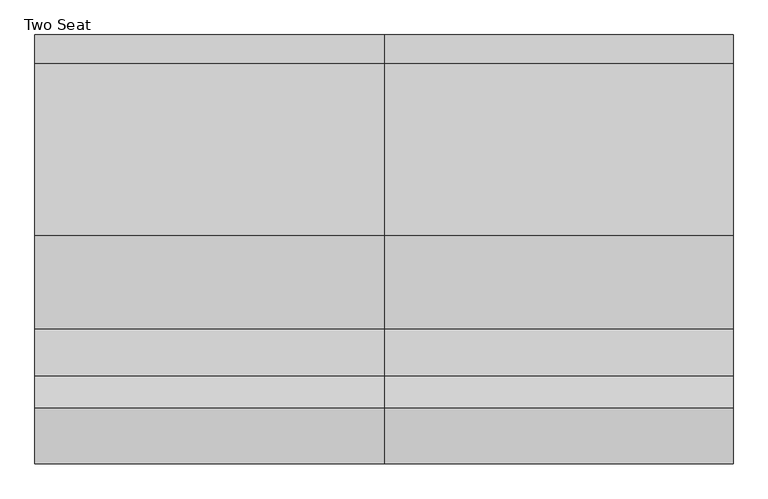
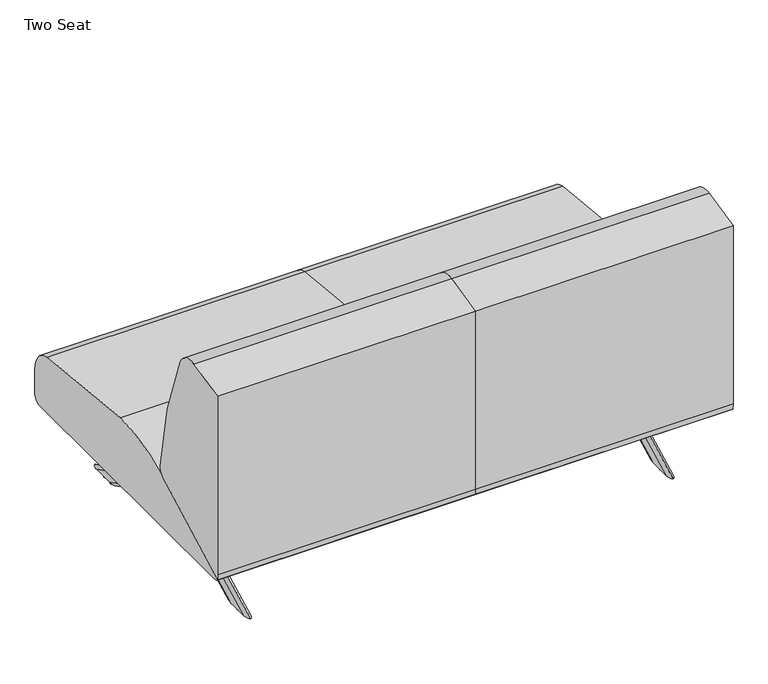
"""IFC4 building model written with IfcOpenShell, lengths in millimetres: furniture geometry, Coalesse_AM_Seating_LoungeChair_Sistema_LegBase_TwoSeat : Two Seat."""

import ifcopenshell
import ifcopenshell.guid

model = None  # the IFC model being written
_history = None  # IfcOwnerHistory: only IFC2X3 demands one
_inside = {}  # id of a spatial element -> (the spatial element, [elements in it])
_under = {}  # id of a project, library or spatial element -> (it, [spatial elements below it])
_declared = {}  # id of a project -> (the project, [libraries it declares])
_typed = {}  # id of a type object -> (the type object, [elements of that type])
_made_of = {}  # id of a material, layer set ... -> (it, [elements and type objects made of it])


def new_model(schema):
    """Start an empty IFC model of exactly this schema.

    Asked for "IFC4X3", IfcOpenShell would pick the latest addendum, in which some entities
    have other attributes; the version numbers below select the first issue.
    IFC2X3 requires an IfcOwnerHistory on every rooted entity: one is made here for all.
    """
    global model, _history
    if schema == "IFC4X3":
        model = ifcopenshell.file(schema_version=(4, 3, 0, 0))
    else:
        model = ifcopenshell.file(schema=schema)
    _inside.clear()
    _under.clear()
    _declared.clear()
    _typed.clear()
    _made_of.clear()
    _history = None
    if model.schema == "IFC2X3":
        org = make("IfcOrganization", Name="unknown")
        user = make(
            "IfcPersonAndOrganization",
            ThePerson=make("IfcPerson", FamilyName="unknown"),
            TheOrganization=org,
        )
        app = make(
            "IfcApplication",
            ApplicationDeveloper=org,
            Version="unknown",
            ApplicationFullName="unknown",
            ApplicationIdentifier="unknown",
        )
        _history = make(
            "IfcOwnerHistory",
            OwningUser=user,
            OwningApplication=app,
            ChangeAction="ADDED",
            CreationDate=0,
        )
    return model


def make(cls, **values):
    """One entity of the class cls with the attributes given. An attribute that is None is left unset."""
    return model.create_entity(
        cls, **{name: value for name, value in values.items() if value is not None}
    )


def rooted(cls, **values):
    """An entity with a GlobalId (a new one), such as an element, a storey or a relation."""
    return make(cls, GlobalId=ifcopenshell.guid.new(), OwnerHistory=_history, **values)


def si_unit(unit_type, name, prefix=None):
    """IfcSIUnit, for example si_unit("LENGTHUNIT", "METRE", prefix="MILLI")."""
    return make("IfcSIUnit", UnitType=unit_type, Prefix=prefix, Name=name)


def assignment(units):
    """IfcUnitAssignment: the units of a project."""
    return None if units is None else make("IfcUnitAssignment", Units=units)


def point(xyz):
    """IfcCartesianPoint."""
    return None if xyz is None else make("IfcCartesianPoint", Coordinates=xyz)


def direction(xyz):
    """IfcDirection."""
    return None if xyz is None else make("IfcDirection", DirectionRatios=xyz)


def frame(location, z_axis=None, x_axis=None):
    """IfcAxis2Placement3D, a coordinate frame: its origin and axes. An axis left out is left unset."""
    return make(
        "IfcAxis2Placement3D",
        Location=point(location),
        Axis=direction(z_axis),
        RefDirection=direction(x_axis),
    )


def frame_2d(location, x_axis=None):
    """IfcAxis2Placement2D, a coordinate frame in the plane: its origin and x axis."""
    return make(
        "IfcAxis2Placement2D", Location=point(location), RefDirection=direction(x_axis)
    )


def origin():
    """The frame at (0, 0, 0) with its axes left unset."""
    return frame((0.0, 0.0, 0.0))


def origin_with_axes():
    """The frame at (0, 0, 0) with the z axis (0, 0, 1) and the x axis (1, 0, 0) written out."""
    return frame((0.0, 0.0, 0.0), z_axis=(0.0, 0.0, 1.0), x_axis=(1.0, 0.0, 0.0))


def place(relative_to, where):
    """IfcLocalPlacement: puts the frame where relative to a parent placement (None: the world)."""
    return make(
        "IfcLocalPlacement", PlacementRelTo=relative_to, RelativePlacement=where
    )


def context(
    kind, dimensions, precision=None, world=None, true_north=None, identifier=None
):
    """IfcGeometricRepresentationContext, for example the 3D "Model" context."""
    return make(
        "IfcGeometricRepresentationContext",
        ContextIdentifier=identifier,
        ContextType=kind,
        CoordinateSpaceDimension=dimensions,
        Precision=precision,
        WorldCoordinateSystem=world,
        TrueNorth=true_north,
    )


def project(units=None, contexts=None):
    """IfcProject with its units and contexts."""
    return rooted(
        "IfcProject",
        Name="project",
        RepresentationContexts=contexts,
        UnitsInContext=assignment(units),
    )


def spatial(cls, under=None, at=None, **own):
    """A site, building, storey or space (cls), placed at a placement, below another one or the project."""
    s = rooted(cls, ObjectPlacement=at, **own)
    if under is not None:
        _under.setdefault(under.id(), (under, []))[1].append(s)
    return s


def polyline(points):
    """IfcPolyline through the points."""
    return make("IfcPolyline", Points=[point(p) for p in points])


def circle_curve(where, radius):
    """IfcCircle in the frame where."""
    return make("IfcCircle", Position=where, Radius=radius)


def ellipse_curve(where, semi_axis1, semi_axis2):
    """IfcEllipse in the frame where."""
    return make(
        "IfcEllipse", Position=where, SemiAxis1=semi_axis1, SemiAxis2=semi_axis2
    )


def trimmed(basis, trim1, trim2, sense, master):
    """IfcTrimmedCurve: the piece of a basis curve between two trims."""
    return make(
        "IfcTrimmedCurve",
        BasisCurve=basis,
        Trim1=trim1,
        Trim2=trim2,
        SenseAgreement=sense,
        MasterRepresentation=master,
    )


def segment(curve, same_sense, transition):
    """IfcCompositeCurveSegment."""
    return make(
        "IfcCompositeCurveSegment",
        Transition=transition,
        SameSense=same_sense,
        ParentCurve=curve,
    )


def composite_curve(segments, self_intersect=None):
    """IfcCompositeCurve: segments joined end to end."""
    return make("IfcCompositeCurve", Segments=segments, SelfIntersect=self_intersect)


def outline(outer, holes=None, kind="AREA"):
    """IfcArbitraryClosedProfileDef: a profile drawn as a closed curve; with holes, ...WithVoids."""
    if holes is None:
        return make("IfcArbitraryClosedProfileDef", ProfileType=kind, OuterCurve=outer)
    return make(
        "IfcArbitraryProfileDefWithVoids",
        ProfileType=kind,
        OuterCurve=outer,
        InnerCurves=holes,
    )


def extrude(swept, where, along, depth):
    """IfcExtrudedAreaSolid: the profile swept, set in the frame where, extruded along a direction by depth."""
    return make(
        "IfcExtrudedAreaSolid",
        SweptArea=swept,
        Position=where,
        ExtrudedDirection=direction(along),
        Depth=depth,
    )


def shape(context_of_items, identifier, shape_type, items):
    """IfcShapeRepresentation: the items that make up one representation, for example the "Body"."""
    return make(
        "IfcShapeRepresentation",
        ContextOfItems=context_of_items,
        RepresentationIdentifier=identifier,
        RepresentationType=shape_type,
        Items=items,
    )


def source(mapping_origin, context_of_items, identifier, shape_type, items):
    """IfcRepresentationMap: a shape defined once, which mapped items show again and again."""
    return make(
        "IfcRepresentationMap",
        MappingOrigin=mapping_origin,
        MappedRepresentation=shape(context_of_items, identifier, shape_type, items),
    )


def transform(
    local_origin,
    x_axis=None,
    y_axis=None,
    z_axis=None,
    scale=None,
    scale2=None,
    scale3=None,
    uniform=True,
):
    """IfcCartesianTransformationOperator3D, or its non-uniform kind. x_axis, y_axis, z_axis: its Axis1, 2, 3."""
    if uniform:
        return make(
            "IfcCartesianTransformationOperator3D",
            Axis1=direction(x_axis),
            Axis2=direction(y_axis),
            LocalOrigin=point(local_origin),
            Scale=scale,
            Axis3=direction(z_axis),
        )
    return make(
        "IfcCartesianTransformationOperator3DnonUniform",
        Axis1=direction(x_axis),
        Axis2=direction(y_axis),
        LocalOrigin=point(local_origin),
        Scale=scale,
        Axis3=direction(z_axis),
        Scale2=scale2,
        Scale3=scale3,
    )


def mapped(mapping_source, mapping_target):
    """IfcMappedItem: shows the shape of a source again, moved by a transform."""
    return make(
        "IfcMappedItem", MappingSource=mapping_source, MappingTarget=mapping_target
    )


def made_of(thing, what):
    """Note that an element or type object is made of a material, layer set ...; save() writes the relation."""
    if what is not None:
        _made_of.setdefault(what.id(), (what, []))[1].append(thing)
    return thing


def element(
    cls,
    number,
    at=None,
    inside=None,
    cuts=None,
    type_object=None,
    material=None,
    context=None,
    identifier="Body",
    shape_type=None,
    held_by="IfcProductDefinitionShape",
    body=None,
    shapes=None,
    **own,
):
    """One element of the class cls, such as IfcWall. Its Tag is "e" and its number.

    at: its placement. inside: the storey or other place that contains it. cuts: it is an
    opening in that element (IfcRelVoidsElement). A single representation is given by context,
    identifier, shape_type and body (its items); several are given by shapes. held_by: the class
    of the entity that holds the representations. save() writes the other relations.
    """
    e = rooted(cls, Tag="e%d" % number, ObjectPlacement=at, **own)
    if body is not None:
        shapes = [shape(context, identifier, shape_type, body)]
    if shapes is not None:
        e.Representation = make(held_by, Representations=shapes)
    if inside is not None:
        _inside.setdefault(inside.id(), (inside, []))[1].append(e)
    if cuts is not None:
        rooted(
            "IfcRelVoidsElement", RelatingBuildingElement=cuts, RelatedOpeningElement=e
        )
    if type_object is not None:
        _typed.setdefault(type_object.id(), (type_object, []))[1].append(e)
    return made_of(e, material)


def aggregate(whole, parts):
    """IfcRelAggregates: a whole, such as a stair, and the parts it consists of."""
    return rooted("IfcRelAggregates", RelatingObject=whole, RelatedObjects=parts)


def save(model, path):
    """Write the relations noted so far, then the file.

    IfcRelAggregates (storeys below a building ...), IfcRelContainedInSpatialStructure (elements
    in a storey), IfcRelDefinesByType, IfcRelAssociatesMaterial and IfcRelDeclares: one each for
    every whole, place, type object, material and project.
    """
    for whole, parts in _under.values():
        aggregate(whole, parts)
    for where, things in _inside.values():
        rooted(
            "IfcRelContainedInSpatialStructure",
            RelatedElements=things,
            RelatingStructure=where,
        )
    for kind, things in _typed.values():
        rooted("IfcRelDefinesByType", RelatedObjects=things, RelatingType=kind)
    for what, things in _made_of.values():
        rooted("IfcRelAssociatesMaterial", RelatedObjects=things, RelatingMaterial=what)
    for by, libraries in _declared.values():
        rooted("IfcRelDeclares", RelatingContext=by, RelatedDefinitions=libraries)
    model.write(path)


def plane_surface(at):
    """IfcPlane: the flat surface through the origin of the frame at, square to its z axis."""
    return make("IfcPlane", Position=at)


def cylinder_surface(at, radius):
    """IfcCylindricalSurface: all points at the distance radius from the z axis of the frame at."""
    return make("IfcCylindricalSurface", Position=at, Radius=radius)


def advanced_brep(points, edges, surfaces, faces):
    """IfcAdvancedBrep: a solid bounded by faces that lie on surfaces and meet in shared edges.

    An edge is (start, end): straight between two places in points (the first is 0);
    or (start, end, curve); or (start, end, curve, False) where it runs against its curve.
    A face is (place in surfaces, loops), or (place, loops, False) where it looks against
    its surface's normal. A loop lists edges by number (the first is 1), with a minus sign
    where the edge is run from its end to its start. The first loop is the outer one.
    """
    corners = [point(p) for p in points]
    vertices = [make("IfcVertexPoint", VertexGeometry=c) for c in corners]
    made = []
    for start, end, *more in edges:
        made.append(
            make(
                "IfcEdgeCurve",
                EdgeStart=vertices[start],
                EdgeEnd=vertices[end],
                EdgeGeometry=more[0] if more else make("IfcPolyline", Points=[corners[start], corners[end]]),
                SameSense=more[1] if len(more) > 1 else True,
            )
        )
    hull = []
    for where, loops, *sense in faces:
        bounds = []
        for j, loop in enumerate(loops):
            ring = [make("IfcOrientedEdge", EdgeElement=made[abs(k) - 1], Orientation=k > 0) for k in loop]
            bounds.append(
                make(
                    "IfcFaceOuterBound" if j == 0 else "IfcFaceBound",
                    Bound=make("IfcEdgeLoop", EdgeList=ring),
                    Orientation=True,
                )
            )
        hull.append(make("IfcAdvancedFace", Bounds=bounds, FaceSurface=surfaces[where], SameSense=sense[0] if sense else True))
    return make("IfcAdvancedBrep", Outer=make("IfcClosedShell", CfsFaces=hull))


def two_seat_87143def(model_context):
    return source(origin(), model_context, "Body", "SolidModel", [
        extrude(outline(composite_curve([segment(trimmed(circle_curve(frame_2d((201.422, 966.5259944)), 3.048), [point((204.47, 966.5259944))], [point((201.422, 963.4779944))], False, "CARTESIAN"), True, "CONTINUOUS"), segment(polyline([(201.422, 963.4779944), (157.0399209, 963.4779944)]), True, "CONTINUOUS"), segment(trimmed(circle_curve(frame_2d((157.0399209, 966.5259944)), 3.048), [point((157.0399209, 963.4779944))], [point((153.9919209, 966.5259944))], False, "CARTESIAN"), True, "CONTINUOUS"), segment(polyline([(153.9919209, 966.5259944), (153.9919209, 1011.2135501)]), True, "CONTINUOUS"), segment(trimmed(circle_curve(frame_2d((157.056462, 1011.2135501)), 3.0645412), [point((153.9919209, 1011.2135501))], [point((157.056462, 1014.2780913))], False, "CARTESIAN"), True, "CONTINUOUS"), segment(polyline([(157.056462, 1014.2780913), (201.422, 1014.2780913)]), True, "CONTINUOUS"), segment(trimmed(circle_curve(frame_2d((201.422, 1011.2300913)), 3.048), [point((201.422, 1014.2780913))], [point((204.47, 1011.2300913))], False, "CARTESIAN"), True, "CONTINUOUS"), segment(polyline([(204.47, 1011.2300913), (204.47, 966.5259944)]), True, "CONTINUOUS")], self_intersect=False)), frame((0.0, -222.3519802, 0.0), z_axis=(0.0, 1.0, 0.0), x_axis=(0.0, 0.0, 1.0)), (0.0, 0.0, 1.0), 444.7039604),
        extrude(outline(composite_curve([segment(trimmed(circle_curve(frame_2d((989.1765227, -335.9943389)), 6.096), [point((995.2725227, -335.9943389))], [point((983.0805227, -335.9943389))], False, "CARTESIAN"), True, "CONTINUOUS"), segment(trimmed(circle_curve(frame_2d((989.1765227, -335.9943389)), 6.096), [point((983.0805227, -335.9943389))], [point((995.2725227, -335.9943389))], False, "CARTESIAN"), True, "CONTINUOUS")], self_intersect=False)), origin_with_axes(), (0.0, 0.0, 1.0), 4.3662291),
        extrude(outline(composite_curve([segment(trimmed(circle_curve(frame_2d((989.1765227, -303.6385124)), 6.096), [point((995.2725227, -303.6385124))], [point((983.0805227, -303.6385124))], False, "CARTESIAN"), True, "CONTINUOUS"), segment(trimmed(circle_curve(frame_2d((989.1765227, -303.6385124)), 6.096), [point((983.0805227, -303.6385124))], [point((995.2725227, -303.6385124))], False, "CARTESIAN"), True, "CONTINUOUS")], self_intersect=False)), origin_with_axes(), (0.0, 0.0, 1.0), 4.3662291),
        extrude(outline(composite_curve([segment(trimmed(circle_curve(frame_2d((989.1765227, 335.9943389)), 6.096), [point((995.2725227, 335.9943389))], [point((983.0805227, 335.9943389))], False, "CARTESIAN"), True, "CONTINUOUS"), segment(trimmed(circle_curve(frame_2d((989.1765227, 335.9943389)), 6.096), [point((983.0805227, 335.9943389))], [point((995.2725227, 335.9943389))], False, "CARTESIAN"), True, "CONTINUOUS")], self_intersect=False)), origin_with_axes(), (0.0, 0.0, 1.0), 4.3662291),
        extrude(outline(composite_curve([segment(trimmed(circle_curve(frame_2d((989.1765227, 303.6385124)), 6.096), [point((995.2725227, 303.6385124))], [point((983.0805227, 303.6385124))], False, "CARTESIAN"), True, "CONTINUOUS"), segment(trimmed(circle_curve(frame_2d((989.1765227, 303.6385124)), 6.096), [point((983.0805227, 303.6385124))], [point((995.2725227, 303.6385124))], False, "CARTESIAN"), True, "CONTINUOUS")], self_intersect=False)), origin_with_axes(), (0.0, 0.0, 1.0), 4.3662291),
        advanced_brep(
        [(997.3356355, 0.0, 159.4180284), (989.1765227, 0.0, 147.5156063), (989.1765227, 280.9464714, 4.3662291), (997.3356355, 304.3062902, 4.3662291), (980.3404671, 0.0, 159.4180284), (980.3404671, 304.3062902, 4.3662291), (980.3404671, -304.3062902, 4.3662291), (980.3404671, -369.5911772, 4.3662291), (980.3404671, 0.0, 192.6823398), (980.3404671, 369.5911772, 4.3662291), (989.1765227, 0.0, 204.0827956), (989.1765227, 391.9658314, 4.3662291), (997.3356355, 0.0, 192.6823398), (997.3356355, 369.5911772, 4.3662291), (997.3356355, -369.5911772, 4.3662291), (997.3356355, -304.3062902, 4.3662291), (989.1765227, -280.9464714, 4.3662291), (989.1765227, -391.9658314, 4.3662291)],
        [
            (0, 1, ellipse_curve(frame((986.3638526, 0.0, 159.4180284), z_axis=(0.0, 0.9999999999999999, 0.0), x_axis=(0.0, 0.0, -1.0)), 12.3139198, 10.9717828)),
            (1, 2),
            (2, 3, ellipse_curve(frame((986.3638526, 304.3062902, 4.3662291), z_axis=(0.0, 0.0, 1.0), x_axis=(0.0, 0.9999999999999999, 0.0)), 24.1674283, 10.9717828)),
            (3, 0),
            (1, 4, ellipse_curve(frame((991.1226981, 0.0, 159.4180284), z_axis=(0.0, 0.9999999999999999, 0.0), x_axis=(0.0, 0.0, -1.0)), 12.1011807, 10.782231)),
            (4, 5),
            (5, 2, ellipse_curve(frame((991.1226981, 304.3062902, 4.3662291), z_axis=(0.0, 0.0, 1.0), x_axis=(0.0, 0.9999999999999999, 0.0)), 23.7499044, 10.782231)),
            (4, 6),
            (6, 7),
            (7, 8),
            (8, 9),
            (9, 5),
            (8, 10, ellipse_curve(frame((990.5972164, 0.0, 192.6823398), z_axis=(0.0, 0.9999999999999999, 0.0), x_axis=(0.0, 0.0, -1.0)), 11.5114188, 10.2567493)),
            (10, 11),
            (11, 9, ellipse_curve(frame((990.5972164, 369.5911772, 4.3662291), z_axis=(0.0, 0.0, 1.0), x_axis=(0.0, 0.9999999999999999, 0.0)), 22.5924315, 10.2567493)),
            (10, 12, ellipse_curve(frame((986.9329323, 0.0, 192.6823398), z_axis=(0.0, 0.9999999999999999, 0.0), x_axis=(0.0, 0.0, -1.0)), 11.6752267, 10.4027032)),
            (12, 13),
            (13, 11, ellipse_curve(frame((986.9329323, 369.5911772, 4.3662291), z_axis=(0.0, 0.0, 1.0), x_axis=(0.0, 0.9999999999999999, 0.0)), 22.9139226, 10.4027032)),
            (3, 13),
            (12, 14),
            (14, 15),
            (15, 0),
            (15, 16, ellipse_curve(frame((986.3638526, -304.3062902, 4.3662291), z_axis=(0.0, 0.0, 1.0), x_axis=(0.0, 1.0, 0.0)), 24.1674283, 10.9717828)),
            (16, 1),
            (16, 6, ellipse_curve(frame((991.1226981, -304.3062902, 4.3662291), z_axis=(0.0, 0.0, 1.0), x_axis=(0.0, 1.0, 0.0)), 23.7499044, 10.782231)),
            (7, 17, ellipse_curve(frame((990.5972164, -369.5911772, 4.3662291), z_axis=(0.0, 0.0, 1.0), x_axis=(0.0, 1.0, 0.0)), 22.5924315, 10.2567493)),
            (17, 10),
            (17, 14, ellipse_curve(frame((986.9329323, -369.5911772, 4.3662291), z_axis=(0.0, 0.0, 1.0), x_axis=(0.0, 1.0, 0.0)), 22.9139226, 10.4027032)),
        ],
        [
            cylinder_surface(frame((986.3638526, 406.1496224, -47.5255405), z_axis=(0.0, 0.891006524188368, -0.45399049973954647), x_axis=(-1.0, 0.0, 0.0)), 10.9717828),
            cylinder_surface(frame((991.1226981, 406.1496224, -47.5255405), z_axis=(0.0, 0.891006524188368, -0.45399049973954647), x_axis=(-1.0, 0.0, 0.0)), 10.782231),
            plane_surface(frame((980.3404671, 406.1496224, -47.5255405), z_axis=(-1.0, 0.0, 0.0), x_axis=(0.0, -0.8910065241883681, 0.45399049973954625))),
            cylinder_surface(frame((990.5972164, 419.605319, -21.1172489), z_axis=(0.0, 0.891006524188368, -0.45399049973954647), x_axis=(-1.0, 0.0, 0.0)), 10.2567493),
            cylinder_surface(frame((986.9329323, 419.605319, -21.1172489), z_axis=(0.0, 0.891006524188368, -0.45399049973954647), x_axis=(-1.0, 0.0, 0.0)), 10.4027032),
            plane_surface(frame((997.3356355, 419.605319, -21.1172489), z_axis=(1.0000000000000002, 0.0, 0.0), x_axis=(0.0, -0.8910065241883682, 0.45399049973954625))),
            cylinder_surface(frame((986.3638526, -27.0708966, 145.6247177), z_axis=(0.0, 0.8910065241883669, 0.45399049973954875), x_axis=(-1.0, 0.0, 0.0)), 10.9717828),
            cylinder_surface(frame((991.1226981, -27.0708966, 145.6247177), z_axis=(0.0, 0.8910065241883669, 0.45399049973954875), x_axis=(-1.0, 0.0, 0.0)), 10.782231),
            cylinder_surface(frame((990.5972164, -40.5265933, 172.0330092), z_axis=(0.0, 0.8910065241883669, 0.45399049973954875), x_axis=(-1.0, 0.0, 0.0)), 10.2567493),
            cylinder_surface(frame((986.9329323, -40.5265933, 172.0330092), z_axis=(0.0, 0.8910065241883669, 0.45399049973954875), x_axis=(-1.0, 0.0, 0.0)), 10.4027032),
            plane_surface(frame((1293.9765227, -253.4374013, 4.3662291), z_axis=(0.0, 0.0, -1.0), x_axis=(-1.0, 0.0, 0.0))),
            plane_surface(frame((1293.9765227, 424.8336244, 4.3662291), z_axis=(0.0, 0.0, -1.0), x_axis=(-1.0, 0.0, 0.0))),
        ],
        [
            (0, [[1, 2, 3, 4]]),
            (1, [[5, 6, 7, -2]]),
            (2, [[-6, 8, 9, 10, 11, 12]]),
            (3, [[13, 14, 15, -11]]),
            (4, [[16, 17, 18, -14]]),
            (5, [[-4, 19, -17, 20, 21, 22]]),
            (6, [[-1, -22, 23, 24]]),
            (7, [[-5, -24, 25, -8]]),
            (8, [[-13, -10, 26, 27]]),
            (9, [[-16, -27, 28, -20]]),
            (10, [[-9, -25, -23, -21, -28, -26]]),
            (11, [[-3, -7, -12, -15, -18, -19]]),
        ],
    ),
        extrude(outline(composite_curve([segment(polyline([(-459.4795619, 775.8234697), (-339.9143278, 802.6408523)]), True, "CONTINUOUS"), segment(trimmed(circle_curve(frame_2d((-326.5730192, 743.158661)), 60.96), [point((-339.9143278, 802.6408523))], [point((-271.1088001, 768.4537592))], False, "CARTESIAN"), True, "CONTINUOUS"), segment(trimmed(circle_curve(frame_2d((-1327.5544182, 286.6495247)), 1161.1256023), [point((-271.1088001, 768.4537592))], [point((-170.6161698, 385.1713698))], False, "CARTESIAN"), True, "CONTINUOUS"), segment(trimmed(circle_curve(frame_2d((-195.9245701, 383.0161724)), 25.4), [point((-170.6161698, 385.1713698))], [point((-183.8457951, 360.6719742))], False, "CARTESIAN"), True, "CONTINUOUS"), segment(polyline([(-183.8457951, 360.6719742), (-458.9860775, 211.937276)]), True, "CONTINUOUS"), segment(trimmed(circle_curve(frame_2d((-191.495971, 228.1929806)), 267.983591), [point((-458.9860775, 211.937276))], [point((-459.4795619, 228.1929806))], False, "CARTESIAN"), True, "CONTINUOUS"), segment(polyline([(-459.4795619, 228.1929806), (-459.4795619, 775.8234697)]), True, "CONTINUOUS")], self_intersect=False)), frame((-374.8034773, 0.0, 0.0), z_axis=(1.0, 0.0, 0.0), x_axis=(0.0, 1.0, 0.0)), (0.0, 0.0, 1.0), 749.3),
        extrude(outline(composite_curve([segment(polyline([(438.9184381, 204.47), (-442.3266309, 204.47)]), True, "CONTINUOUS"), segment(trimmed(circle_curve(frame_2d((-442.3266309, 226.7871991)), 22.3171991), [point((-442.3266309, 204.47))], [point((-458.9860775, 211.937276))], False, "CARTESIAN"), True, "CONTINUOUS"), segment(polyline([(-458.9860775, 211.937276), (-184.5757008, 360.2774035)]), True, "CONTINUOUS"), segment(trimmed(circle_curve(frame_2d((24.5128424, -28.3829182)), 441.333054), [point((-184.5757008, 360.2774035))], [point((31.1968175, 412.8995185))], False, "CARTESIAN"), True, "CONTINUOUS"), segment(trimmed(circle_curve(frame_2d((-2.2103559, -1792.6740646)), 2205.8265729), [point((31.1968175, 412.8995185))], [point((398.9277015, 376.3716077))], False, "CARTESIAN"), True, "CONTINUOUS"), segment(trimmed(circle_curve(frame_2d((385.0704381, 301.4421993)), 76.2), [point((398.9277015, 376.3716077))], [point((461.2704381, 301.4421993))], False, "CARTESIAN"), True, "CONTINUOUS"), segment(polyline([(461.2704381, 301.4421993), (461.2704381, 226.822)]), True, "CONTINUOUS"), segment(trimmed(circle_curve(frame_2d((438.9184381, 226.822)), 22.352), [point((461.2704381, 226.822))], [point((438.9184381, 204.47))], False, "CARTESIAN"), True, "CONTINUOUS")], self_intersect=False)), frame((-374.8034773, 0.0, 0.0), z_axis=(1.0, 0.0, 0.0), x_axis=(0.0, 1.0, 0.0)), (0.0, 0.0, 1.0), 749.3),
        extrude(outline(composite_curve([segment(polyline([(-459.4795619, 775.8234697), (-339.9143278, 802.6408523)]), True, "CONTINUOUS"), segment(trimmed(circle_curve(frame_2d((-326.5730192, 743.158661)), 60.96), [point((-339.9143278, 802.6408523))], [point((-271.1088001, 768.4537592))], False, "CARTESIAN"), True, "CONTINUOUS"), segment(trimmed(circle_curve(frame_2d((-1327.5544182, 286.6495247)), 1161.1256023), [point((-271.1088001, 768.4537592))], [point((-170.6161698, 385.1713698))], False, "CARTESIAN"), True, "CONTINUOUS"), segment(trimmed(circle_curve(frame_2d((-195.9245701, 383.0161724)), 25.4), [point((-170.6161698, 385.1713698))], [point((-183.8457951, 360.6719742))], False, "CARTESIAN"), True, "CONTINUOUS"), segment(polyline([(-183.8457951, 360.6719742), (-458.9860775, 211.937276)]), True, "CONTINUOUS"), segment(trimmed(circle_curve(frame_2d((-191.495971, 228.1929806)), 267.983591), [point((-458.9860775, 211.937276))], [point((-459.4795619, 228.1929806))], False, "CARTESIAN"), True, "CONTINUOUS"), segment(polyline([(-459.4795619, 228.1929806), (-459.4795619, 775.8234697)]), True, "CONTINUOUS")], self_intersect=False)), frame((374.4965227, 0.0, 0.0), z_axis=(1.0, 0.0, 0.0), x_axis=(0.0, 1.0, 0.0)), (0.0, 0.0, 1.0), 749.3),
        extrude(outline(composite_curve([segment(polyline([(438.9184381, 204.47), (-442.3266309, 204.47)]), True, "CONTINUOUS"), segment(trimmed(circle_curve(frame_2d((-442.3266309, 226.7871991)), 22.3171991), [point((-442.3266309, 204.47))], [point((-458.9860775, 211.937276))], False, "CARTESIAN"), True, "CONTINUOUS"), segment(polyline([(-458.9860775, 211.937276), (-184.5757008, 360.2774035)]), True, "CONTINUOUS"), segment(trimmed(circle_curve(frame_2d((24.5128424, -28.3829182)), 441.333054), [point((-184.5757008, 360.2774035))], [point((31.1968175, 412.8995185))], False, "CARTESIAN"), True, "CONTINUOUS"), segment(trimmed(circle_curve(frame_2d((-2.2103559, -1792.6740646)), 2205.8265729), [point((31.1968175, 412.8995185))], [point((398.9277015, 376.3716077))], False, "CARTESIAN"), True, "CONTINUOUS"), segment(trimmed(circle_curve(frame_2d((385.0704381, 301.4421993)), 76.2), [point((398.9277015, 376.3716077))], [point((461.2704381, 301.4421993))], False, "CARTESIAN"), True, "CONTINUOUS"), segment(polyline([(461.2704381, 301.4421993), (461.2704381, 226.822)]), True, "CONTINUOUS"), segment(trimmed(circle_curve(frame_2d((438.9184381, 226.822)), 22.352), [point((461.2704381, 226.822))], [point((438.9184381, 204.47))], False, "CARTESIAN"), True, "CONTINUOUS")], self_intersect=False)), frame((374.4965227, 0.0, 0.0), z_axis=(1.0, 0.0, 0.0), x_axis=(0.0, 1.0, 0.0)), (0.0, 0.0, 1.0), 749.3),
        extrude(outline(composite_curve([segment(polyline([(204.47, -217.532949), (204.47, -262.2370459)]), True, "CONTINUOUS"), segment(trimmed(circle_curve(frame_2d((201.422, -262.2370459)), 3.048), [point((204.47, -262.2370459))], [point((201.422, -265.2850459))], False, "CARTESIAN"), True, "CONTINUOUS"), segment(polyline([(201.422, -265.2850459), (157.056462, -265.2850459)]), True, "CONTINUOUS"), segment(trimmed(circle_curve(frame_2d((157.056462, -262.2205047)), 3.0645412), [point((157.056462, -265.2850459))], [point((153.9919209, -262.2205047))], False, "CARTESIAN"), True, "CONTINUOUS"), segment(polyline([(153.9919209, -262.2205047), (153.9919209, -217.532949)]), True, "CONTINUOUS"), segment(trimmed(circle_curve(frame_2d((157.0399209, -217.532949)), 3.048), [point((153.9919209, -217.532949))], [point((157.0399209, -214.484949))], False, "CARTESIAN"), True, "CONTINUOUS"), segment(polyline([(157.0399209, -214.484949), (201.422, -214.484949)]), True, "CONTINUOUS"), segment(trimmed(circle_curve(frame_2d((201.422, -217.532949)), 3.048), [point((201.422, -214.484949))], [point((204.47, -217.532949))], False, "CARTESIAN"), True, "CONTINUOUS")], self_intersect=False)), frame((0.0, -222.3519802, 0.0), z_axis=(0.0, 1.0, 0.0), x_axis=(0.0, 0.0, 1.0)), (0.0, 0.0, 1.0), 444.7039604),
        extrude(outline(composite_curve([segment(trimmed(circle_curve(frame_2d((-240.1834773, -335.9943389)), 6.096), [point((-246.2794773, -335.9943389))], [point((-234.0874773, -335.9943389))], False, "CARTESIAN"), True, "CONTINUOUS"), segment(trimmed(circle_curve(frame_2d((-240.1834773, -335.9943389)), 6.096), [point((-234.0874773, -335.9943389))], [point((-246.2794773, -335.9943389))], False, "CARTESIAN"), True, "CONTINUOUS")], self_intersect=False)), origin_with_axes(), (0.0, 0.0, 1.0), 4.3662291),
        extrude(outline(composite_curve([segment(trimmed(circle_curve(frame_2d((-240.1834773, -303.6385124)), 6.096), [point((-246.2794773, -303.6385124))], [point((-234.0874773, -303.6385124))], False, "CARTESIAN"), True, "CONTINUOUS"), segment(trimmed(circle_curve(frame_2d((-240.1834773, -303.6385124)), 6.096), [point((-234.0874773, -303.6385124))], [point((-246.2794773, -303.6385124))], False, "CARTESIAN"), True, "CONTINUOUS")], self_intersect=False)), origin_with_axes(), (0.0, 0.0, 1.0), 4.3662291),
        extrude(outline(composite_curve([segment(trimmed(circle_curve(frame_2d((-240.1834773, 335.9943389)), 6.096), [point((-246.2794773, 335.9943389))], [point((-234.0874773, 335.9943389))], False, "CARTESIAN"), True, "CONTINUOUS"), segment(trimmed(circle_curve(frame_2d((-240.1834773, 335.9943389)), 6.096), [point((-234.0874773, 335.9943389))], [point((-246.2794773, 335.9943389))], False, "CARTESIAN"), True, "CONTINUOUS")], self_intersect=False)), origin_with_axes(), (0.0, 0.0, 1.0), 4.3662291),
        extrude(outline(composite_curve([segment(trimmed(circle_curve(frame_2d((-240.1834773, 303.6385124)), 6.096), [point((-246.2794773, 303.6385124))], [point((-234.0874773, 303.6385124))], False, "CARTESIAN"), True, "CONTINUOUS"), segment(trimmed(circle_curve(frame_2d((-240.1834773, 303.6385124)), 6.096), [point((-234.0874773, 303.6385124))], [point((-246.2794773, 303.6385124))], False, "CARTESIAN"), True, "CONTINUOUS")], self_intersect=False)), origin_with_axes(), (0.0, 0.0, 1.0), 4.3662291),
        advanced_brep(
        [(-248.3425901, 0.0, 159.4180284), (-248.3425901, 304.3062902, 4.3662291), (-240.1834773, 280.9464714, 4.3662291), (-240.1834773, 0.0, 147.5156063), (-231.3474218, 304.3062902, 4.3662291), (-231.3474218, 0.0, 159.4180284), (-231.3474218, 369.5911772, 4.3662291), (-231.3474218, 0.0, 192.6823398), (-231.3474218, -369.5911772, 4.3662291), (-231.3474218, -304.3062902, 4.3662291), (-240.1834773, 391.9658314, 4.3662291), (-240.1834773, 0.0, 204.0827956), (-248.3425901, 369.5911772, 4.3662291), (-248.3425901, 0.0, 192.6823398), (-248.3425901, -304.3062902, 4.3662291), (-248.3425901, -369.5911772, 4.3662291), (-240.1834773, -280.9464714, 4.3662291), (-240.1834773, -391.9658314, 4.3662291)],
        [
            (0, 1),
            (1, 2, ellipse_curve(frame((-237.3708073, 304.3062902, 4.3662291), z_axis=(0.0, 0.0, 1.0), x_axis=(0.0, 0.9999999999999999, 0.0)), 24.1674283, 10.9717828)),
            (2, 3),
            (3, 0, ellipse_curve(frame((-237.3708073, 0.0, 159.4180284), z_axis=(0.0, 0.9999999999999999, 0.0), x_axis=(0.0, 0.0, -1.0)), 12.3139198, 10.9717828)),
            (2, 4, ellipse_curve(frame((-242.1296527, 304.3062902, 4.3662291), z_axis=(0.0, 0.0, 1.0), x_axis=(0.0, 0.9999999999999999, 0.0)), 23.7499044, 10.782231)),
            (4, 5),
            (5, 3, ellipse_curve(frame((-242.1296527, 0.0, 159.4180284), z_axis=(0.0, 0.9999999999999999, 0.0), x_axis=(0.0, 0.0, -1.0)), 12.1011807, 10.782231)),
            (4, 6),
            (6, 7),
            (7, 8),
            (8, 9),
            (9, 5),
            (6, 10, ellipse_curve(frame((-241.604171, 369.5911772, 4.3662291), z_axis=(0.0, 0.0, 1.0), x_axis=(0.0, 0.9999999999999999, 0.0)), 22.5924315, 10.2567493)),
            (10, 11),
            (11, 7, ellipse_curve(frame((-241.604171, 0.0, 192.6823398), z_axis=(0.0, 0.9999999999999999, 0.0), x_axis=(0.0, 0.0, -1.0)), 11.5114188, 10.2567493)),
            (10, 12, ellipse_curve(frame((-237.9398869, 369.5911772, 4.3662291), z_axis=(0.0, 0.0, 1.0), x_axis=(0.0, 0.9999999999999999, 0.0)), 22.9139226, 10.4027032)),
            (12, 13),
            (13, 11, ellipse_curve(frame((-237.9398869, 0.0, 192.6823398), z_axis=(0.0, 0.9999999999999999, 0.0), x_axis=(0.0, 0.0, -1.0)), 11.6752267, 10.4027032)),
            (0, 14),
            (14, 15),
            (15, 13),
            (12, 1),
            (3, 16),
            (16, 14, ellipse_curve(frame((-237.3708073, -304.3062902, 4.3662291), z_axis=(0.0, 0.0, 1.0), x_axis=(0.0, 1.0, 0.0)), 24.1674283, 10.9717828)),
            (9, 16, ellipse_curve(frame((-242.1296527, -304.3062902, 4.3662291), z_axis=(0.0, 0.0, 1.0), x_axis=(0.0, 1.0, 0.0)), 23.7499044, 10.782231)),
            (11, 17),
            (17, 8, ellipse_curve(frame((-241.604171, -369.5911772, 4.3662291), z_axis=(0.0, 0.0, 1.0), x_axis=(0.0, 1.0, 0.0)), 22.5924315, 10.2567493)),
            (15, 17, ellipse_curve(frame((-237.9398869, -369.5911772, 4.3662291), z_axis=(0.0, 0.0, 1.0), x_axis=(0.0, 1.0, 0.0)), 22.9139226, 10.4027032)),
        ],
        [
            cylinder_surface(frame((-237.3708073, 406.1496224, -47.5255405), z_axis=(0.0, 0.891006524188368, -0.45399049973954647), x_axis=(1.0, 0.0, 0.0)), 10.9717828),
            cylinder_surface(frame((-242.1296527, 406.1496224, -47.5255405), z_axis=(0.0, 0.891006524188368, -0.45399049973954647), x_axis=(1.0, 0.0, 0.0)), 10.782231),
            plane_surface(frame((-231.3474218, 406.1496224, -47.5255405), z_axis=(1.0, 0.0, 0.0), x_axis=(0.0, -0.8910065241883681, 0.45399049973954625))),
            cylinder_surface(frame((-241.604171, 419.605319, -21.1172489), z_axis=(0.0, 0.891006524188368, -0.45399049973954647), x_axis=(1.0, 0.0, 0.0)), 10.2567493),
            cylinder_surface(frame((-237.9398869, 419.605319, -21.1172489), z_axis=(0.0, 0.891006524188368, -0.45399049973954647), x_axis=(1.0, 0.0, 0.0)), 10.4027032),
            plane_surface(frame((-248.3425901, 419.605319, -21.1172489), z_axis=(-1.0000000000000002, 0.0, 0.0), x_axis=(0.0, -0.8910065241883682, 0.45399049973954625))),
            cylinder_surface(frame((-237.3708073, -27.0708966, 145.6247177), z_axis=(0.0, 0.8910065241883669, 0.45399049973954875), x_axis=(1.0, 0.0, 0.0)), 10.9717828),
            cylinder_surface(frame((-242.1296527, -27.0708966, 145.6247177), z_axis=(0.0, 0.8910065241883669, 0.45399049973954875), x_axis=(1.0, 0.0, 0.0)), 10.782231),
            cylinder_surface(frame((-241.604171, -40.5265933, 172.0330092), z_axis=(0.0, 0.8910065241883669, 0.45399049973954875), x_axis=(1.0, 0.0, 0.0)), 10.2567493),
            cylinder_surface(frame((-237.9398869, -40.5265933, 172.0330092), z_axis=(0.0, 0.8910065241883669, 0.45399049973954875), x_axis=(1.0, 0.0, 0.0)), 10.4027032),
            plane_surface(frame((-544.9834773, -253.4374013, 4.3662291), z_axis=(0.0, 0.0, -1.0), x_axis=(1.0, 0.0, 0.0))),
            plane_surface(frame((-544.9834773, 424.8336244, 4.3662291), z_axis=(0.0, 0.0, -1.0), x_axis=(1.0, 0.0, 0.0))),
        ],
        [
            (0, [[1, 2, 3, 4]]),
            (1, [[-3, 5, 6, 7]]),
            (2, [[8, 9, 10, 11, 12, -6]]),
            (3, [[-9, 13, 14, 15]]),
            (4, [[-14, 16, 17, 18]]),
            (5, [[19, 20, 21, -17, 22, -1]]),
            (6, [[23, 24, -19, -4]]),
            (7, [[-12, 25, -23, -7]]),
            (8, [[26, 27, -10, -15]]),
            (9, [[-21, 28, -26, -18]]),
            (10, [[-27, -28, -20, -24, -25, -11]]),
            (11, [[-22, -16, -13, -8, -5, -2]]),
        ],
    ),
    ])


if __name__ == "__main__":
    model = new_model("IFC4")
    model_context = context("Model", 3, world=origin())
    ifc_project = project(units=[si_unit("LENGTHUNIT", "METRE", prefix="MILLI")], contexts=[model_context])
    site = spatial("IfcSite", under=ifc_project)
    building = spatial("IfcBuilding", under=site)
    placement = place(None, origin())
    two_seat_shape = two_seat_87143def(model_context)
    element("IfcFurniture", 1, ObjectType="Coalesse_AM_Seating_LoungeChair_Sistema_LegBase_TwoSeat : Two Seat", at=placement, inside=building, context=model_context, shape_type="MappedRepresentation", body=[
        mapped(two_seat_shape, transform((0.0, 0.0, 0.0), x_axis=(1.0, 0.0, 0.0), y_axis=(0.0, 1.0, 0.0), z_axis=(0.0, 0.0, 1.0))),
    ])
    save(model, "model.ifc")
